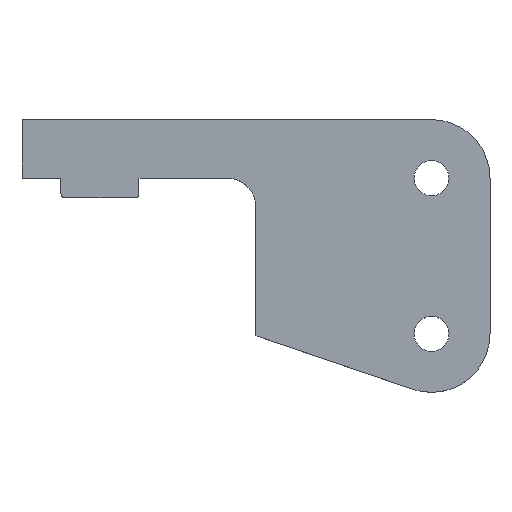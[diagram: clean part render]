
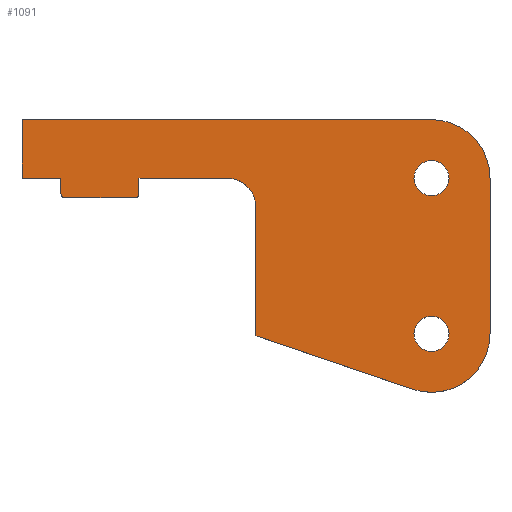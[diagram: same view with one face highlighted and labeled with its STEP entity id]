
A CAD part, top view. The second image highlights one B-rep face of the part: STEP entity #1091.
In plain terms, the highlighted planar face has unit normal (0, 0, 1).
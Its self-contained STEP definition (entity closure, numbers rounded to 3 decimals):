
#513=CIRCLE('',#1042,15.);
#515=CIRCLE('',#1046,15.);
#516=CIRCLE('',#1050,7.5);
#518=CIRCLE('',#1053,1.);
#519=CIRCLE('',#1054,1.);
#520=CIRCLE('',#1055,4.5);
#521=CIRCLE('',#1056,4.5);
#569=ORIENTED_EDGE('',*,*,#738,.T.);
#570=ORIENTED_EDGE('',*,*,#763,.F.);
#571=ORIENTED_EDGE('',*,*,#764,.F.);
#572=ORIENTED_EDGE('',*,*,#765,.T.);
#573=ORIENTED_EDGE('',*,*,#766,.F.);
#574=ORIENTED_EDGE('',*,*,#767,.T.);
#575=ORIENTED_EDGE('',*,*,#768,.T.);
#576=ORIENTED_EDGE('',*,*,#760,.F.);
#577=ORIENTED_EDGE('',*,*,#759,.F.);
#578=ORIENTED_EDGE('',*,*,#756,.T.);
#579=ORIENTED_EDGE('',*,*,#753,.T.);
#580=ORIENTED_EDGE('',*,*,#750,.T.);
#581=ORIENTED_EDGE('',*,*,#747,.T.);
#582=ORIENTED_EDGE('',*,*,#744,.F.);
#583=ORIENTED_EDGE('',*,*,#741,.T.);
#584=ORIENTED_EDGE('',*,*,#769,.F.);
#585=ORIENTED_EDGE('',*,*,#770,.F.);
#634=VECTOR('',#839,1.);
#637=VECTOR('',#844,1.);
#640=VECTOR('',#849,1.);
#644=VECTOR('',#861,1.);
#648=VECTOR('',#873,1.);
#651=VECTOR('',#878,1.);
#653=VECTOR('',#888,1.);
#654=VECTOR('',#891,1.);
#655=VECTOR('',#894,1.);
#656=VECTOR('',#895,1.);
#669=LINE('',#943,#634);
#672=LINE('',#949,#637);
#675=LINE('',#955,#640);
#679=LINE('',#967,#644);
#683=LINE('',#979,#648);
#686=LINE('',#985,#651);
#688=LINE('',#994,#653);
#689=LINE('',#998,#654);
#690=LINE('',#1002,#655);
#691=LINE('',#1003,#656);
#702=VERTEX_POINT('',#937);
#704=VERTEX_POINT('',#941);
#706=VERTEX_POINT('',#946);
#708=VERTEX_POINT('',#952);
#710=VERTEX_POINT('',#958);
#712=VERTEX_POINT('',#964);
#714=VERTEX_POINT('',#970);
#716=VERTEX_POINT('',#976);
#718=VERTEX_POINT('',#982);
#719=VERTEX_POINT('',#987);
#721=VERTEX_POINT('',#993);
#722=VERTEX_POINT('',#995);
#723=VERTEX_POINT('',#997);
#724=VERTEX_POINT('',#999);
#725=VERTEX_POINT('',#1001);
#726=VERTEX_POINT('',#1004);
#727=VERTEX_POINT('',#1006);
#738=EDGE_CURVE('',#702,#704,#669,.T.);
#741=EDGE_CURVE('',#706,#702,#672,.T.);
#744=EDGE_CURVE('',#706,#708,#675,.T.);
#747=EDGE_CURVE('',#710,#708,#513,.T.);
#750=EDGE_CURVE('',#712,#710,#679,.T.);
#753=EDGE_CURVE('',#714,#712,#515,.T.);
#756=EDGE_CURVE('',#716,#714,#683,.T.);
#759=EDGE_CURVE('',#716,#718,#686,.T.);
#760=EDGE_CURVE('',#718,#719,#516,.T.);
#763=EDGE_CURVE('',#721,#704,#688,.T.);
#764=EDGE_CURVE('',#722,#721,#518,.T.);
#765=EDGE_CURVE('',#722,#723,#689,.T.);
#766=EDGE_CURVE('',#724,#723,#519,.T.);
#767=EDGE_CURVE('',#724,#725,#690,.T.);
#768=EDGE_CURVE('',#725,#719,#691,.T.);
#769=EDGE_CURVE('',#726,#726,#520,.T.);
#770=EDGE_CURVE('',#727,#727,#521,.T.);
#793=EDGE_LOOP('',(#569,#570,#571,#572,#573,#574,#575,#576,#577,#578,#579,
#580,#581,#582,#583));
#794=EDGE_LOOP('',(#584));
#795=EDGE_LOOP('',(#585));
#818=FACE_BOUND('',#793,.T.);
#819=FACE_BOUND('',#794,.T.);
#820=FACE_BOUND('',#795,.T.);
#839=DIRECTION('',(10.,0.,0.));
#844=DIRECTION('',(0.,-15.,0.));
#849=DIRECTION('',(105.,0.,0.));
#855=DIRECTION('',(0.,0.,1.));
#856=DIRECTION('',(0.,15.,0.));
#861=DIRECTION('',(0.,39.926,0.));
#867=DIRECTION('',(0.,0.,1.));
#868=DIRECTION('',(0.,15.,0.));
#873=DIRECTION('',(40.166,-13.674,0.));
#878=DIRECTION('',(0.,32.952,0.));
#881=DIRECTION('',(0.,0.,1.));
#882=DIRECTION('',(0.,7.5,0.));
#886=DIRECTION('',(0.,0.,1.));
#887=DIRECTION('',(0.,-1.,0.));
#888=DIRECTION('',(0.,4.,0.));
#889=DIRECTION('',(0.,0.,-1.));
#890=DIRECTION('',(0.,-1.,0.));
#891=DIRECTION('',(18.,0.,0.));
#892=DIRECTION('',(0.,0.,-1.));
#893=DIRECTION('',(0.,-1.,0.));
#894=DIRECTION('',(0.,4.,0.));
#895=DIRECTION('',(22.5,0.,0.));
#896=DIRECTION('',(0.,0.,1.));
#897=DIRECTION('',(0.,-4.5,0.));
#898=DIRECTION('',(0.,0.,1.));
#899=DIRECTION('',(0.,-4.5,0.));
#937=CARTESIAN_POINT('',(6884.504,13866.36,8.));
#941=CARTESIAN_POINT('',(6894.504,13866.36,8.));
#943=CARTESIAN_POINT('',(6884.504,13866.36,8.));
#946=CARTESIAN_POINT('',(6884.504,13881.36,8.));
#949=CARTESIAN_POINT('',(6884.504,13881.36,8.));
#952=CARTESIAN_POINT('',(6989.504,13881.36,8.));
#955=CARTESIAN_POINT('',(6884.504,13881.36,8.));
#958=CARTESIAN_POINT('',(7004.504,13866.36,8.));
#961=CARTESIAN_POINT('',(6989.504,13866.36,8.));
#964=CARTESIAN_POINT('',(7004.504,13826.434,8.));
#967=CARTESIAN_POINT('',(7004.504,13826.434,8.));
#970=CARTESIAN_POINT('',(6984.67,13812.235,8.));
#973=CARTESIAN_POINT('',(6989.504,13826.434,8.));
#976=CARTESIAN_POINT('',(6944.504,13825.908,8.));
#979=CARTESIAN_POINT('',(6944.504,13825.908,8.));
#982=CARTESIAN_POINT('',(6944.504,13858.86,8.));
#985=CARTESIAN_POINT('',(6944.504,13825.908,8.));
#987=CARTESIAN_POINT('',(6937.004,13866.36,8.));
#988=CARTESIAN_POINT('',(6937.004,13858.86,8.));
#992=CARTESIAN_POINT('',(0.,0.,8.));
#993=CARTESIAN_POINT('',(6894.504,13862.36,8.));
#994=CARTESIAN_POINT('',(6894.504,13862.36,8.));
#995=CARTESIAN_POINT('',(6895.504,13861.36,8.));
#996=CARTESIAN_POINT('',(6895.504,13862.36,8.));
#997=CARTESIAN_POINT('',(6913.504,13861.36,8.));
#998=CARTESIAN_POINT('',(6895.504,13861.36,8.));
#999=CARTESIAN_POINT('',(6914.504,13862.36,8.));
#1000=CARTESIAN_POINT('',(6913.504,13862.36,8.));
#1001=CARTESIAN_POINT('',(6914.504,13866.36,8.));
#1002=CARTESIAN_POINT('',(6914.504,13862.36,8.));
#1003=CARTESIAN_POINT('',(6914.504,13866.36,8.));
#1004=CARTESIAN_POINT('',(6989.504,13821.934,8.));
#1005=CARTESIAN_POINT('',(6989.504,13826.434,8.));
#1006=CARTESIAN_POINT('',(6989.504,13861.86,8.));
#1007=CARTESIAN_POINT('',(6989.504,13866.36,8.));
#1042=AXIS2_PLACEMENT_3D('',#961,#855,#856);
#1046=AXIS2_PLACEMENT_3D('',#973,#867,#868);
#1050=AXIS2_PLACEMENT_3D('',#988,#881,#882);
#1052=AXIS2_PLACEMENT_3D('',#992,#886,#887);
#1053=AXIS2_PLACEMENT_3D('',#996,#889,#890);
#1054=AXIS2_PLACEMENT_3D('',#1000,#892,#893);
#1055=AXIS2_PLACEMENT_3D('',#1005,#896,#897);
#1056=AXIS2_PLACEMENT_3D('',#1007,#898,#899);
#1076=PLANE('',#1052);
#1091=ADVANCED_FACE('',(#818,#819,#820),#1076,.T.);
